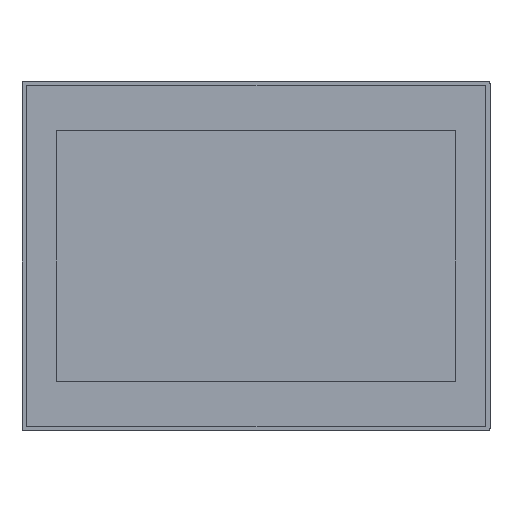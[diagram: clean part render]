
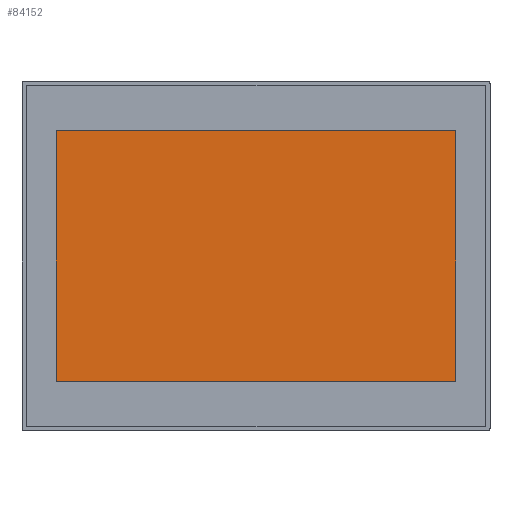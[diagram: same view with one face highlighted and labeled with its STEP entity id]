
A CAD part, top view. The second image highlights one B-rep face of the part: STEP entity #84152.
In plain terms, the highlighted planar face has unit normal (0, 0, 1).
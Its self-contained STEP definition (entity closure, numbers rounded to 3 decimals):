
#75668=DIRECTION('',(0.,-1.,0.));
#75669=VECTOR('',#75668,164.6);
#75670=CARTESIAN_POINT('',(22.44,197.,35.65));
#75671=LINE('',#75670,#75669);
#75675=DIRECTION('',(-1.,0.,0.));
#75676=VECTOR('',#75675,262.52);
#75677=CARTESIAN_POINT('',(284.96,197.,35.65));
#75678=LINE('',#75677,#75676);
#75682=DIRECTION('',(0.,1.,0.));
#75683=VECTOR('',#75682,164.6);
#75684=CARTESIAN_POINT('',(284.96,32.4,35.65));
#75685=LINE('',#75684,#75683);
#75689=DIRECTION('',(1.,0.,0.));
#75690=VECTOR('',#75689,262.52);
#75691=CARTESIAN_POINT('',(22.44,32.4,35.65));
#75692=LINE('',#75691,#75690);
#82143=CARTESIAN_POINT('',(22.44,197.,35.65));
#82144=CARTESIAN_POINT('',(22.44,32.4,35.65));
#82145=VERTEX_POINT('',#82143);
#82146=VERTEX_POINT('',#82144);
#82147=CARTESIAN_POINT('',(284.96,32.4,35.65));
#82148=VERTEX_POINT('',#82147);
#82149=CARTESIAN_POINT('',(284.96,197.,35.65));
#82150=VERTEX_POINT('',#82149);
#84141=CARTESIAN_POINT('',(0.,0.,35.65));
#84142=DIRECTION('',(0.,0.,1.));
#84143=DIRECTION('',(1.,0.,0.));
#84144=AXIS2_PLACEMENT_3D('',#84141,#84142,#84143);
#84145=PLANE('',#84144);
#84146=ORIENTED_EDGE('',*,*,#84045,.F.);
#84147=ORIENTED_EDGE('',*,*,#84072,.F.);
#84148=ORIENTED_EDGE('',*,*,#84098,.F.);
#84149=ORIENTED_EDGE('',*,*,#84123,.F.);
#84150=EDGE_LOOP('',(#84146,#84147,#84148,#84149));
#84151=FACE_OUTER_BOUND('',#84150,.F.);
#84045=EDGE_CURVE('',#82145,#82146,#75671,.T.);
#84072=EDGE_CURVE('',#82150,#82145,#75678,.T.);
#84098=EDGE_CURVE('',#82148,#82150,#75685,.T.);
#84123=EDGE_CURVE('',#82146,#82148,#75692,.T.);
#84152=ADVANCED_FACE('',(#84151),#84145,.T.);
